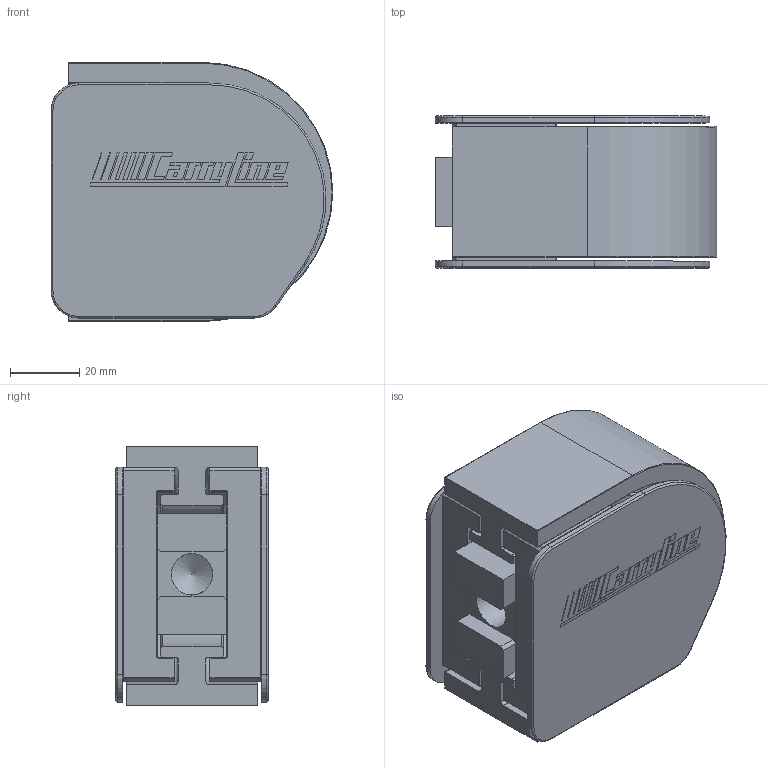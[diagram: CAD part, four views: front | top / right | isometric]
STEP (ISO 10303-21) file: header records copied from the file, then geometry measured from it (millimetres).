
FILE_DESCRIPTION((''),'2;1');
FILE_NAME('E:\Vault\Projekt\S380\3D S380\Serie 380\380-4000.stp','2010-11-30T15:04:07',('Per'),(''),'Autodesk Inventor 2011','Autodesk Inventor 2011','');
FILE_SCHEMA(('AUTOMOTIVE_DESIGN { 1 0 10303 214 1 1 1 1 }'));
Length unit declared in the file: millimetre
Products named in the file (1): 380-4000
Bounding box: 81.5 x 44.2 x 75 mm (x, y, z)
Volume: 120532 mm3; surface area: 62542.7 mm2
Topology: 1 solids, 3 shells, 1123 faces, 2698 edges, 1469 vertices
Faces by surface type: plane 410, cylinder 336, torus 158, sphere 124, bspline 88, cone 7
Full cylindrical faces by diameter (mm): 3.242 x2, 4 x4, 6.647 x2, 7.5 x4, 12 x1, 20 x1, 28 x2, 29.4 x1
Entity records: 34171 total; most frequent: CARTESIAN_POINT 7903, DIRECTION 5534, ORIENTED_EDGE 4996, EDGE_CURVE 2498, AXIS2_PLACEMENT_3D 2106, VERTEX_POINT 1462, VECTOR 1322, LINE 1322
